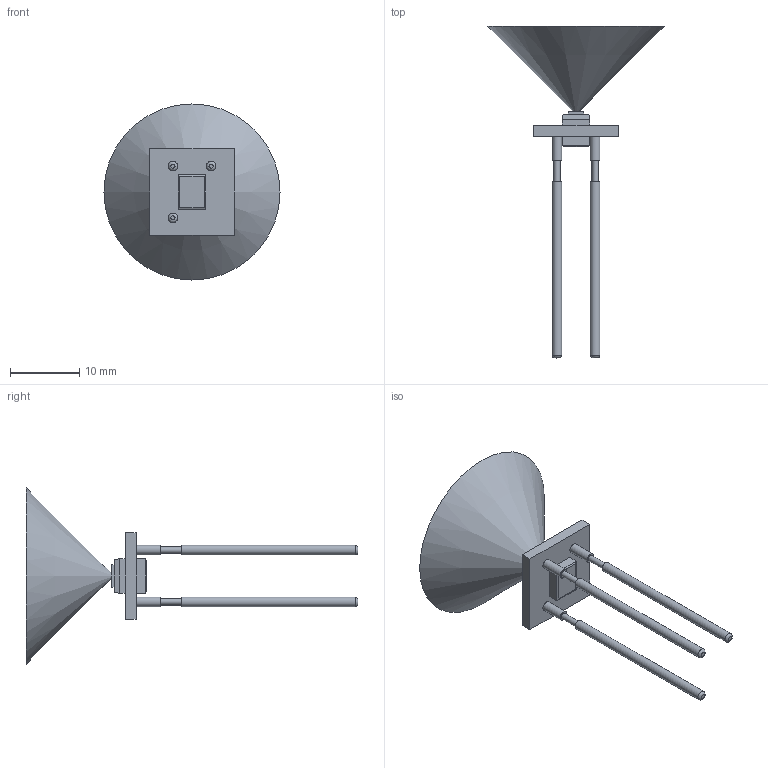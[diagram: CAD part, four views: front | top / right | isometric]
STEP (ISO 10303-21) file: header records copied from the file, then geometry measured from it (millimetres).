
FILE_DESCRIPTION(/* description */ (''),/* implementation_level */ '2;1');
FILE_NAME(/* name */ 'C:/Users/sorto/Desktop/SF_RA _LOS.step',/* time_stamp */ '2020-10-05T13:52:01-05:00',/* author */ (''),/* organization */ (''),/* preprocessor_version */ 'ST-DEVELOPER v18.1',/* originating_system */ 'Autodesk Translation Framework v9.3.0.1241',/* authorisation */ '');
FILE_SCHEMA (('AUTOMOTIVE_DESIGN { 1 0 10303 214 3 1 1 }'));
Length unit declared in the file: inch
Products named in the file (1): SF_RA
Bounding box: 25.4 x 47.86 x 25.4 mm (x, y, z)
Volume: 2583 mm3; surface area: 2204 mm2
Topology: 11 solids, 11 shells, 64 faces, 112 edges, 72 vertices
Faces by surface type: plane 48, cylinder 12, bspline 3, cone 1
Full cylindrical faces by diameter (mm): 0.914 x3, 1.372 x9
Entity records: 1680 total; most frequent: CARTESIAN_POINT 326, DIRECTION 269, ORIENTED_EDGE 222, EDGE_CURVE 111, AXIS2_PLACEMENT_3D 96, LINE 77, VECTOR 77, EDGE_LOOP 73
